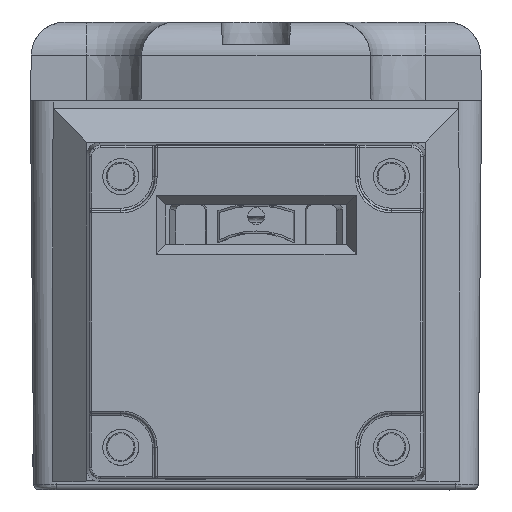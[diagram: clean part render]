
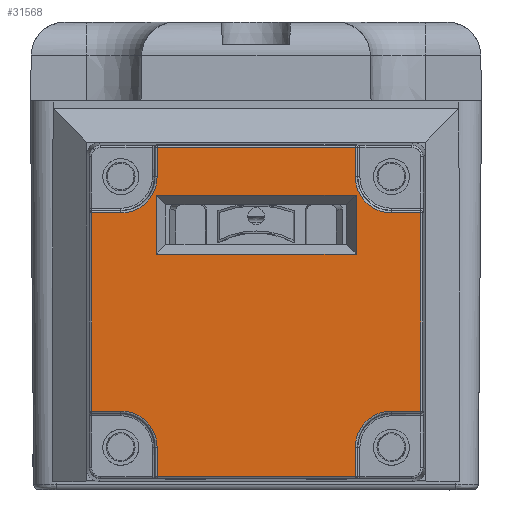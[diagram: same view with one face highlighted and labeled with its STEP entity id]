
A CAD part, front view. The second image highlights one B-rep face of the part: STEP entity #31568.
In plain terms, the highlighted planar face has unit normal (0, -1, 0) as drawn and (0, 0, 1) by its records, which use the part's own axes.
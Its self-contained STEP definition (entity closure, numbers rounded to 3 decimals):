
#2468=FACE_BOUND('',#6982,.T.);
#3405=CIRCLE('',#34620,3.216);
#3410=CIRCLE('',#34627,3.216);
#3411=CIRCLE('',#34628,3.216);
#3412=CIRCLE('',#34629,3.216);
#5053=FACE_OUTER_BOUND('',#6981,.T.);
#6981=EDGE_LOOP('',(#28283,#28284,#28285,#28286,#28287,#28288,#28289,#28290,
#28291,#28292,#28293,#28294,#28295,#28296,#28297,#28298));
#6982=EDGE_LOOP('',(#28299,#28300,#28301,#28302));
#9639=LINE('',#70365,#12334);
#9640=LINE('',#70368,#12335);
#9641=LINE('',#70370,#12336);
#9642=LINE('',#70372,#12337);
#9643=LINE('',#70376,#12338);
#9644=LINE('',#70378,#12339);
#9645=LINE('',#70380,#12340);
#9646=LINE('',#70384,#12341);
#9647=LINE('',#70386,#12342);
#9648=LINE('',#70388,#12343);
#9649=LINE('',#70392,#12344);
#9650=LINE('',#70393,#12345);
#9651=LINE('',#70396,#12346);
#9652=LINE('',#70398,#12347);
#9653=LINE('',#70400,#12348);
#9654=LINE('',#70401,#12349);
#12334=VECTOR('',#43157,2.579);
#12335=VECTOR('',#43160,2.579);
#12336=VECTOR('',#43161,17.569);
#12337=VECTOR('',#43162,2.579);
#12338=VECTOR('',#43165,2.579);
#12339=VECTOR('',#43166,17.569);
#12340=VECTOR('',#43167,2.579);
#12341=VECTOR('',#43170,2.579);
#12342=VECTOR('',#43171,17.569);
#12343=VECTOR('',#43172,2.579);
#12344=VECTOR('',#43175,2.579);
#12345=VECTOR('',#43176,17.569);
#12346=VECTOR('',#43177,17.732);
#12347=VECTOR('',#43178,5.232);
#12348=VECTOR('',#43179,17.732);
#12349=VECTOR('',#43180,5.232);
#15331=VERTEX_POINT('',#70352);
#15332=VERTEX_POINT('',#70353);
#15335=VERTEX_POINT('',#70361);
#15337=VERTEX_POINT('',#70367);
#15338=VERTEX_POINT('',#70369);
#15339=VERTEX_POINT('',#70371);
#15340=VERTEX_POINT('',#70373);
#15341=VERTEX_POINT('',#70375);
#15342=VERTEX_POINT('',#70377);
#15343=VERTEX_POINT('',#70379);
#15344=VERTEX_POINT('',#70381);
#15345=VERTEX_POINT('',#70383);
#15346=VERTEX_POINT('',#70385);
#15347=VERTEX_POINT('',#70387);
#15348=VERTEX_POINT('',#70389);
#15349=VERTEX_POINT('',#70391);
#15350=VERTEX_POINT('',#70394);
#15351=VERTEX_POINT('',#70395);
#15352=VERTEX_POINT('',#70397);
#15353=VERTEX_POINT('',#70399);
#19688=EDGE_CURVE('',#15331,#15332,#3405,.T.);
#19694=EDGE_CURVE('',#15335,#15331,#9639,.T.);
#19695=EDGE_CURVE('',#15332,#15337,#9640,.T.);
#19696=EDGE_CURVE('',#15337,#15338,#9641,.T.);
#19697=EDGE_CURVE('',#15339,#15338,#9642,.T.);
#19698=EDGE_CURVE('',#15340,#15339,#3410,.T.);
#19699=EDGE_CURVE('',#15341,#15340,#9643,.T.);
#19700=EDGE_CURVE('',#15342,#15341,#9644,.T.);
#19701=EDGE_CURVE('',#15343,#15342,#9645,.F.);
#19702=EDGE_CURVE('',#15344,#15343,#3411,.T.);
#19703=EDGE_CURVE('',#15345,#15344,#9646,.T.);
#19704=EDGE_CURVE('',#15345,#15346,#9647,.T.);
#19705=EDGE_CURVE('',#15346,#15347,#9648,.T.);
#19706=EDGE_CURVE('',#15347,#15348,#3412,.T.);
#19707=EDGE_CURVE('',#15348,#15349,#9649,.T.);
#19708=EDGE_CURVE('',#15349,#15335,#9650,.T.);
#19709=EDGE_CURVE('',#15350,#15351,#9651,.T.);
#19710=EDGE_CURVE('',#15352,#15351,#9652,.T.);
#19711=EDGE_CURVE('',#15353,#15352,#9653,.T.);
#19712=EDGE_CURVE('',#15353,#15350,#9654,.T.);
#28283=ORIENTED_EDGE('',*,*,#19694,.T.);
#28284=ORIENTED_EDGE('',*,*,#19688,.T.);
#28285=ORIENTED_EDGE('',*,*,#19695,.T.);
#28286=ORIENTED_EDGE('',*,*,#19696,.T.);
#28287=ORIENTED_EDGE('',*,*,#19697,.F.);
#28288=ORIENTED_EDGE('',*,*,#19698,.F.);
#28289=ORIENTED_EDGE('',*,*,#19699,.F.);
#28290=ORIENTED_EDGE('',*,*,#19700,.F.);
#28291=ORIENTED_EDGE('',*,*,#19701,.F.);
#28292=ORIENTED_EDGE('',*,*,#19702,.F.);
#28293=ORIENTED_EDGE('',*,*,#19703,.F.);
#28294=ORIENTED_EDGE('',*,*,#19704,.T.);
#28295=ORIENTED_EDGE('',*,*,#19705,.T.);
#28296=ORIENTED_EDGE('',*,*,#19706,.T.);
#28297=ORIENTED_EDGE('',*,*,#19707,.T.);
#28298=ORIENTED_EDGE('',*,*,#19708,.T.);
#28299=ORIENTED_EDGE('',*,*,#19709,.T.);
#28300=ORIENTED_EDGE('',*,*,#19710,.F.);
#28301=ORIENTED_EDGE('',*,*,#19711,.F.);
#28302=ORIENTED_EDGE('',*,*,#19712,.T.);
#29932=PLANE('',#34626);
#31568=ADVANCED_FACE('',(#5053,#2468),#29932,.T.);
#34620=AXIS2_PLACEMENT_3D('',#70354,#43144,#43145);
#34626=AXIS2_PLACEMENT_3D('',#70366,#43158,#43159);
#34627=AXIS2_PLACEMENT_3D('',#70374,#43163,#43164);
#34628=AXIS2_PLACEMENT_3D('',#70382,#43168,#43169);
#34629=AXIS2_PLACEMENT_3D('',#70390,#43173,#43174);
#43144=DIRECTION('center_axis',(0.,0.,-1.));
#43145=DIRECTION('ref_axis',(-1.,0.,0.));
#43157=DIRECTION('',(0.,-1.,0.));
#43158=DIRECTION('center_axis',(0.,0.,1.));
#43159=DIRECTION('ref_axis',(1.,0.,0.));
#43160=DIRECTION('',(-1.,0.,0.));
#43161=DIRECTION('',(0.,-1.,0.));
#43162=DIRECTION('',(-1.,0.,0.));
#43163=DIRECTION('center_axis',(0.,0.,1.));
#43164=DIRECTION('ref_axis',(-1.,0.,0.));
#43165=DIRECTION('',(0.,1.,0.));
#43166=DIRECTION('',(-1.,0.,0.));
#43167=DIRECTION('',(0.,1.,0.));
#43168=DIRECTION('center_axis',(0.,0.,1.));
#43169=DIRECTION('ref_axis',(-1.,0.,0.));
#43170=DIRECTION('',(-1.,0.,0.));
#43171=DIRECTION('',(0.,1.,0.));
#43172=DIRECTION('',(-1.,0.,0.));
#43173=DIRECTION('center_axis',(0.,0.,-1.));
#43174=DIRECTION('ref_axis',(-1.,0.,0.));
#43175=DIRECTION('',(0.,1.,0.));
#43176=DIRECTION('',(-1.,0.,0.));
#43177=DIRECTION('',(0.,-1.,0.));
#43178=DIRECTION('',(1.,0.,0.));
#43179=DIRECTION('',(0.,-1.,0.));
#43180=DIRECTION('',(1.,0.,0.));
#70352=CARTESIAN_POINT('',(-8.784,12.,25.5));
#70353=CARTESIAN_POINT('',(-12.,8.784,25.5));
#70354=CARTESIAN_POINT('Origin',(-12.,12.,25.5));
#70361=CARTESIAN_POINT('',(-8.784,14.579,25.5));
#70365=CARTESIAN_POINT('',(-8.784,14.579,25.5));
#70366=CARTESIAN_POINT('Origin',(15.,-15.,25.5));
#70367=CARTESIAN_POINT('',(-14.579,8.784,25.5));
#70368=CARTESIAN_POINT('',(-12.,8.784,25.5));
#70369=CARTESIAN_POINT('',(-14.579,-8.784,25.5));
#70370=CARTESIAN_POINT('',(-14.579,8.784,25.5));
#70371=CARTESIAN_POINT('',(-12.,-8.784,25.5));
#70372=CARTESIAN_POINT('',(-12.,-8.784,25.5));
#70373=CARTESIAN_POINT('',(-8.784,-12.,25.5));
#70374=CARTESIAN_POINT('Origin',(-12.,-12.,25.5));
#70375=CARTESIAN_POINT('',(-8.784,-14.579,25.5));
#70376=CARTESIAN_POINT('',(-8.784,-14.579,25.5));
#70377=CARTESIAN_POINT('',(8.784,-14.579,25.5));
#70378=CARTESIAN_POINT('',(8.784,-14.579,25.5));
#70379=CARTESIAN_POINT('',(8.784,-12.,25.5));
#70380=CARTESIAN_POINT('',(8.784,-14.579,25.5));
#70381=CARTESIAN_POINT('',(12.,-8.784,25.5));
#70382=CARTESIAN_POINT('Origin',(12.,-12.,25.5));
#70383=CARTESIAN_POINT('',(14.579,-8.784,25.5));
#70384=CARTESIAN_POINT('',(14.579,-8.784,25.5));
#70385=CARTESIAN_POINT('',(14.579,8.784,25.5));
#70386=CARTESIAN_POINT('',(14.579,-8.784,25.5));
#70387=CARTESIAN_POINT('',(12.,8.784,25.5));
#70388=CARTESIAN_POINT('',(14.579,8.784,25.5));
#70389=CARTESIAN_POINT('',(8.784,12.,25.5));
#70390=CARTESIAN_POINT('Origin',(12.,12.,25.5));
#70391=CARTESIAN_POINT('',(8.784,14.579,25.5));
#70392=CARTESIAN_POINT('',(8.784,12.,25.5));
#70393=CARTESIAN_POINT('',(8.784,14.579,25.5));
#70394=CARTESIAN_POINT('',(10.366,8.866,25.5));
#70395=CARTESIAN_POINT('',(10.366,-8.866,25.5));
#70396=CARTESIAN_POINT('',(10.366,8.866,25.5));
#70397=CARTESIAN_POINT('',(5.134,-8.866,25.5));
#70398=CARTESIAN_POINT('',(5.134,-8.866,25.5));
#70399=CARTESIAN_POINT('',(5.134,8.866,25.5));
#70400=CARTESIAN_POINT('',(5.134,8.866,25.5));
#70401=CARTESIAN_POINT('',(5.134,8.866,25.5));
